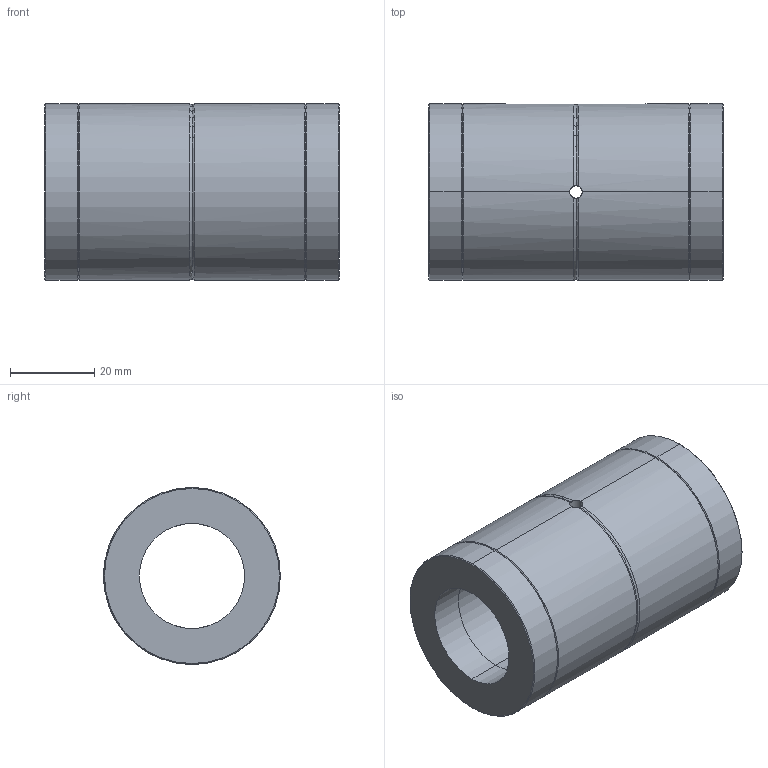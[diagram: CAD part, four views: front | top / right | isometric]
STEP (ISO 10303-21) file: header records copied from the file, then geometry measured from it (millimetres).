
FILE_DESCRIPTION (( 'STEP AP203' ), '1' );
FILE_NAME ('KLT025T4.STEP', '2023-08-11T07:22:11', ( 'Microsoft' ), ( 'Microsoft' ), 'SwSTEP 2.0', 'SolidWorks 2022', '' );
FILE_SCHEMA (( 'CONFIG_CONTROL_DESIGN' ));
Length unit declared in the file: millimetre
Products named in the file (4): 零件6^KLT025T4; 零件7^KLT025T4; 零件4^KLT025T4; KLT025T4
Assembly tree (3 placements, depth 2):
  KLT025T4
    零件4^KLT025T4
    零件6^KLT025T4
    零件7^KLT025T4
Bounding box: 70 x 42 x 42 mm (x, y, z)
Volume: 62119.3 mm3; surface area: 20336.9 mm2
Topology: 3 solids, 3 shells, 47 faces, 115 edges, 70 vertices
Faces by surface type: cylinder 20, cone 12, plane 9, torus 6
Entity records: 2046 total; most frequent: CARTESIAN_POINT 526, DIRECTION 242, ORIENTED_EDGE 230, EDGE_CURVE 115, AXIS2_PLACEMENT_3D 100, VERTEX_POINT 70, EDGE_LOOP 53, ADVANCED_FACE 47
